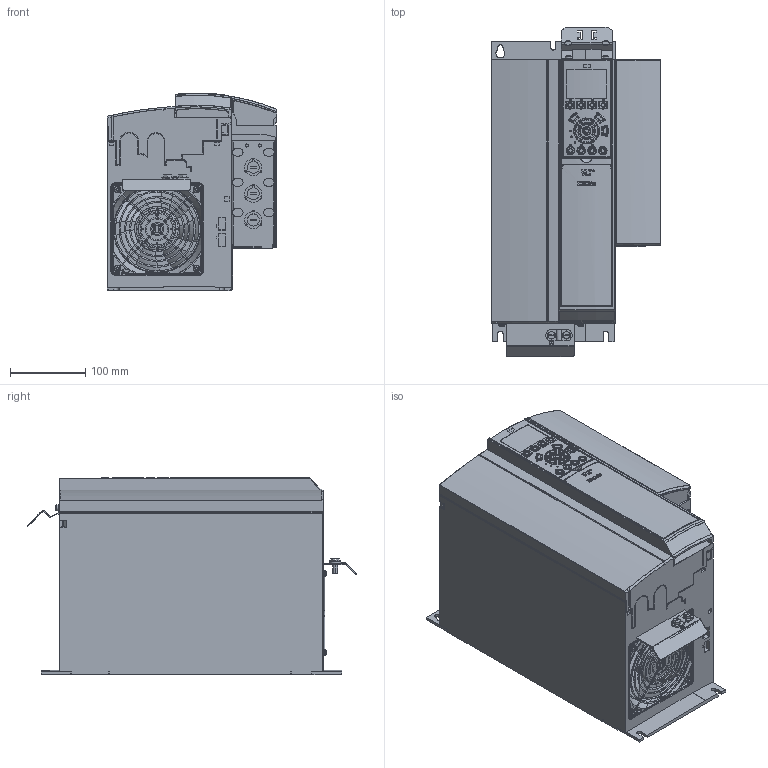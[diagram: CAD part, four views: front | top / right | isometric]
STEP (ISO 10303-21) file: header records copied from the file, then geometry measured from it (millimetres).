
FILE_DESCRIPTION((''),'2;1');
FILE_NAME('DANFOSS-FC100-B3-IP20-ABC-112','2007-06-14T',('Naushad.pm'),('dan Drives A/S'),'PRO/ENGINEER BY PARAMETRIC TECHNOLOGY CORPORATION, 2006200','PRO/ENGINEER BY PARAMETRIC TECHNOLOGY CORPORATION, 2006200','');
FILE_SCHEMA(('CONFIG_CONTROL_DESIGN', 'GEOMETRIC_VALIDATION_PROPERTIES_MIM'));
Length unit declared in the file: millimetre
Products named in the file (1): DANFOSS-FC100-B3-IP20-ABC-112
Bounding box: 225.68 x 437.49 x 262.5 mm (x, y, z)
Volume: 16827462.9 mm3; surface area: 660423.2 mm2
Topology: 2 solids, 19 shells, 4419 faces, 11021 edges, 6694 vertices
Faces by surface type: cylinder 1600, plane 1356, bspline 596, torus 494, sphere 189, cone 95, extrusion 88, revolution 1
Entity records: 217081 total; most frequent: CARTESIAN_POINT 67948, ORIENTED_EDGE 22014, DIRECTION 19613, PRESENTATION_STYLE_ASSIGNMENT 12798, STYLED_ITEM 11194, CURVE_STYLE 11015, EDGE_CURVE 11007, AXIS2_PLACEMENT_3D 7220
